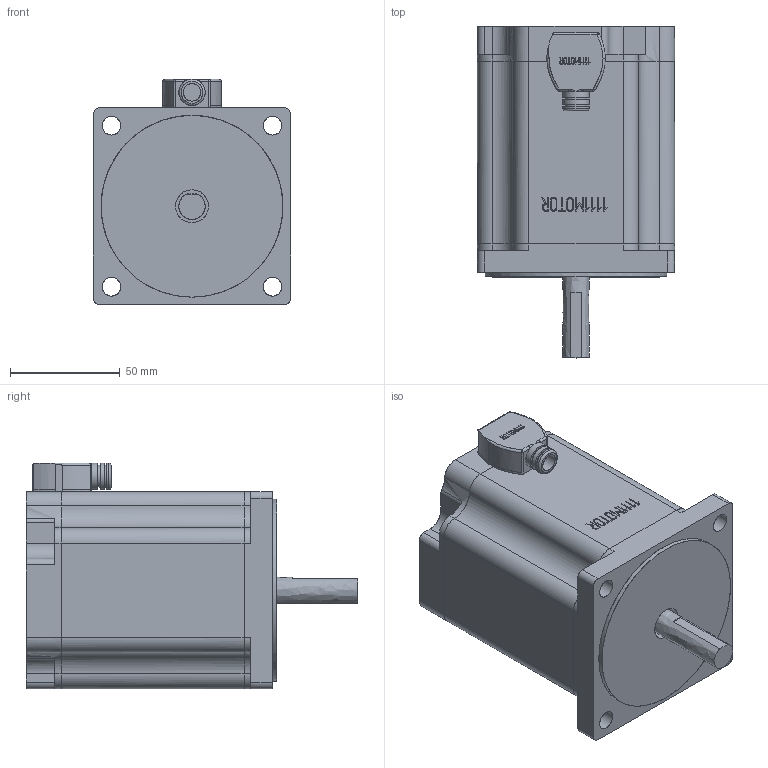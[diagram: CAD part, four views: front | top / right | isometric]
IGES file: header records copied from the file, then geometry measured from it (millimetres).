
Start section: C
Global section: file name: BL90L.igs; native system: By Siemens PLM Incorporated; preprocessor: XPlus GENERIC/IGES 17.0.49; author: Author; organization: Title; date: 20170219.230111; units: millimetre
Bounding box: 90 x 151.5 x 103 mm (x, y, z)
Surface area: 104333 mm2 (no closed solid volume)
Topology: 0 solids, 0 shells, 315 faces, 1986 edges, 1981 vertices
Faces by surface type: bspline 315
